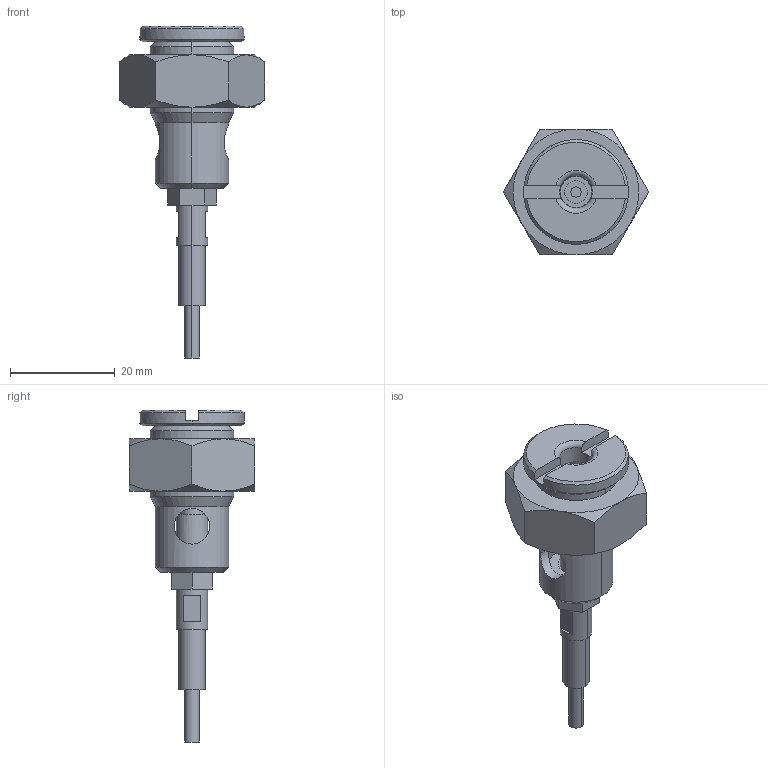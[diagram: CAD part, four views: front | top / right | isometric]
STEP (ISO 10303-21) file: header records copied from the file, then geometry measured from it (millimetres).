
FILE_DESCRIPTION (( 'STEP AP203' ), '1' );
FILE_NAME ('qcwe0625-m16-s.STEP', '2021-10-21T08:27:44', ( '' ), ( '' ), 'SwSTEP 2.0', 'SolidWorks 2020', '' );
FILE_SCHEMA (( 'CONFIG_CONTROL_DESIGN' ));
Length unit declared in the file: millimetre
Products named in the file (4): qcwe0625-m16-s_01; qcwe0625-m16-s_03; qcwe0625-m16-s; qcwe0625-m16-s_02
Assembly tree (3 placements, depth 2):
  qcwe0625-m16-s
    qcwe0625-m16-s_01
    qcwe0625-m16-s_02
    qcwe0625-m16-s_03
Bounding box: 27.71 x 24 x 63.4 mm (x, y, z)
Volume: 7851.8 mm3; surface area: 5791.3 mm2
Topology: 3 solids, 3 shells, 104 faces, 238 edges, 150 vertices
Faces by surface type: plane 40, cylinder 32, cone 30, torus 2
Entity records: 3710 total; most frequent: CARTESIAN_POINT 922, DIRECTION 520, ORIENTED_EDGE 476, EDGE_CURVE 238, AXIS2_PLACEMENT_3D 212, VERTEX_POINT 150, EDGE_LOOP 122, ADVANCED_FACE 104
